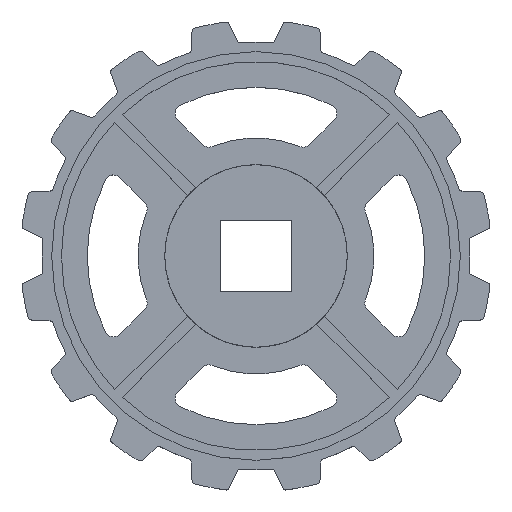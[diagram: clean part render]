
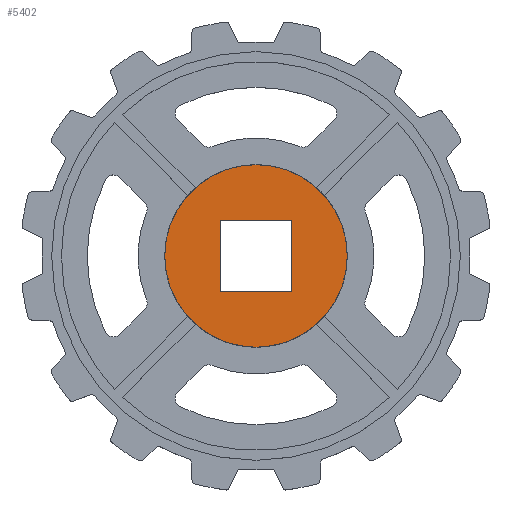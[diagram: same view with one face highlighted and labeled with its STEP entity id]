
A CAD part, top view. The second image highlights one B-rep face of the part: STEP entity #5402.
In plain terms, the highlighted planar face has unit normal (0, 0, 1).
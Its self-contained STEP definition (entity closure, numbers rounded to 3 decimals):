
#5278=CARTESIAN_POINT('Vertex',(51.25,0.,20.)) ;
#5281=CARTESIAN_POINT('Axis2P3D Location',(0.,0.,20.)) ;
#5285=CARTESIAN_POINT('Vertex',(-51.25,0.,20.)) ;
#5307=CARTESIAN_POINT('Axis2P3D Location',(0.,0.,20.)) ;
#5359=CARTESIAN_POINT('Axis2P3D Location',(0.,0.,20.)) ;
#5368=CARTESIAN_POINT('Line Origine',(0.,-20.,20.)) ;
#5372=CARTESIAN_POINT('Vertex',(20.,-20.,20.)) ;
#5374=CARTESIAN_POINT('Vertex',(-20.,-20.,20.)) ;
#5377=CARTESIAN_POINT('Line Origine',(-20.,0.,20.)) ;
#5381=CARTESIAN_POINT('Vertex',(-20.,20.,20.)) ;
#5384=CARTESIAN_POINT('Line Origine',(0.,20.,20.)) ;
#5388=CARTESIAN_POINT('Vertex',(20.,20.,20.)) ;
#5391=CARTESIAN_POINT('Line Origine',(20.,0.,20.)) ;
#5282=DIRECTION('Axis2P3D Direction',(0.,0.,1.)) ;
#5308=DIRECTION('Axis2P3D Direction',(0.,0.,1.)) ;
#5360=DIRECTION('Axis2P3D Direction',(0.,0.,1.)) ;
#5361=DIRECTION('Axis2P3D XDirection',(1.,0.,0.)) ;
#5369=DIRECTION('Vector Direction',(-1.,0.,0.)) ;
#5378=DIRECTION('Vector Direction',(0.,1.,0.)) ;
#5385=DIRECTION('Vector Direction',(1.,0.,0.)) ;
#5392=DIRECTION('Vector Direction',(0.,-1.,0.)) ;
#5283=AXIS2_PLACEMENT_3D('Circle Axis2P3D',#5281,#5282,$) ;
#5309=AXIS2_PLACEMENT_3D('Circle Axis2P3D',#5307,#5308,$) ;
#5362=AXIS2_PLACEMENT_3D('Plane Axis2P3D',#5359,#5360,#5361) ;
#5365=ORIENTED_EDGE('',*,*,#5311,.T.) ;
#5366=ORIENTED_EDGE('',*,*,#5287,.T.) ;
#5397=ORIENTED_EDGE('',*,*,#5376,.T.) ;
#5398=ORIENTED_EDGE('',*,*,#5383,.T.) ;
#5399=ORIENTED_EDGE('',*,*,#5390,.T.) ;
#5400=ORIENTED_EDGE('',*,*,#5395,.T.) ;
#5401=FACE_BOUND('',#5396,.T.) ;
#5370=VECTOR('Line Direction',#5369,1.) ;
#5379=VECTOR('Line Direction',#5378,1.) ;
#5386=VECTOR('Line Direction',#5385,1.) ;
#5393=VECTOR('Line Direction',#5392,1.) ;
#5402=ADVANCED_FACE('PartBody',(#5367,#5401),#5363,.T.) ;
#5284=CIRCLE('generated circle',#5283,51.25) ;
#5310=CIRCLE('generated circle',#5309,51.25) ;
#5287=EDGE_CURVE('',#5286,#5279,#5284,.T.) ;
#5311=EDGE_CURVE('',#5279,#5286,#5310,.T.) ;
#5376=EDGE_CURVE('',#5373,#5375,#5371,.T.) ;
#5383=EDGE_CURVE('',#5375,#5382,#5380,.T.) ;
#5390=EDGE_CURVE('',#5382,#5389,#5387,.T.) ;
#5395=EDGE_CURVE('',#5389,#5373,#5394,.T.) ;
#5364=EDGE_LOOP('',(#5365,#5366)) ;
#5396=EDGE_LOOP('',(#5397,#5398,#5399,#5400)) ;
#5367=FACE_OUTER_BOUND('',#5364,.T.) ;
#5371=LINE('Line',#5368,#5370) ;
#5380=LINE('Line',#5377,#5379) ;
#5387=LINE('Line',#5384,#5386) ;
#5394=LINE('Line',#5391,#5393) ;
#5363=PLANE('',#5362) ;
#5279=VERTEX_POINT('',#5278) ;
#5286=VERTEX_POINT('',#5285) ;
#5373=VERTEX_POINT('',#5372) ;
#5375=VERTEX_POINT('',#5374) ;
#5382=VERTEX_POINT('',#5381) ;
#5389=VERTEX_POINT('',#5388) ;
